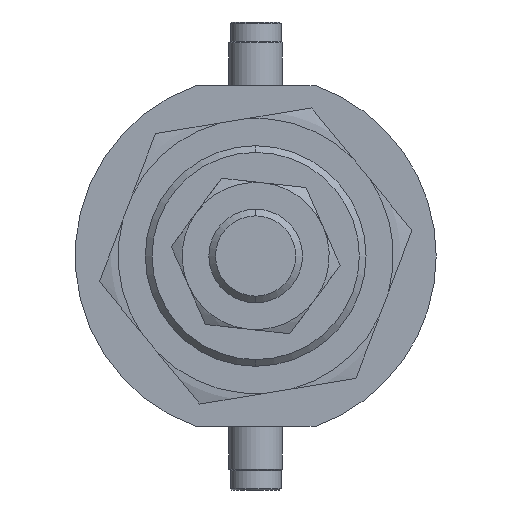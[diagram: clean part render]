
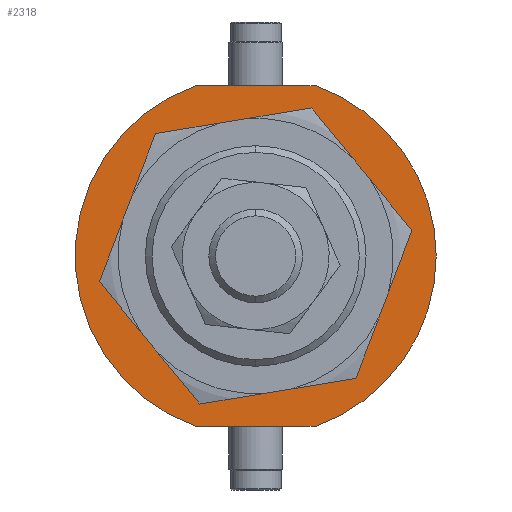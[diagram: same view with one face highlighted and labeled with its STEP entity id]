
A CAD part, left-side view. The second image highlights one B-rep face of the part: STEP entity #2318.
In plain terms, the highlighted planar face has unit normal (-1, 0, 0) as drawn and (0, 1, 0) by its records, which use the part's own axes.
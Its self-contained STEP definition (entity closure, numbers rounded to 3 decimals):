
#57 = CARTESIAN_POINT ( 'NONE',  ( -25.5, 4.5, -8.874 ) ) ;
#67 = EDGE_CURVE ( 'NONE', #132, #5242, #3370, .T. ) ;
#132 = VERTEX_POINT ( 'NONE', #4162 ) ;
#187 = VECTOR ( 'NONE', #3999, 1000. ) ;
#197 = VERTEX_POINT ( 'NONE', #2163 ) ;
#252 = CARTESIAN_POINT ( 'NONE',  ( 0., 4.5, -16.5 ) ) ;
#300 = CARTESIAN_POINT ( 'NONE',  ( 0., 4.5, 16.5 ) ) ;
#430 = EDGE_CURVE ( 'NONE', #2630, #1243, #3219, .T. ) ;
#443 = EDGE_CURVE ( 'NONE', #1243, #2630, #1085, .T. ) ;
#461 = ORIENTED_EDGE ( 'NONE', *, *, #430, .F. ) ;
#506 = PLANE ( 'NONE',  #1558 ) ;
#680 = DIRECTION ( 'NONE',  ( 0., 1., 0. ) ) ;
#975 = EDGE_CURVE ( 'NONE', #5242, #197, #4579, .T. ) ;
#1062 = DIRECTION ( 'NONE',  ( 0., 0., -1. ) ) ;
#1081 = EDGE_LOOP ( 'NONE', ( #3399, #4195, #4968, #3410, #5433 ) ) ;
#1085 = CIRCLE ( 'NONE', #1842, 16.5 ) ;
#1243 = VERTEX_POINT ( 'NONE', #300 ) ;
#1325 = CARTESIAN_POINT ( 'NONE',  ( 25.5, 4.5, -8.874 ) ) ;
#1558 = AXIS2_PLACEMENT_3D ( 'NONE', #5021, #680, #3441 ) ;
#1704 = CARTESIAN_POINT ( 'NONE',  ( 0., 4.5, 0. ) ) ;
#1782 = CIRCLE ( 'NONE', #2525, 27. ) ;
#1800 = VERTEX_POINT ( 'NONE', #3801 ) ;
#1842 = AXIS2_PLACEMENT_3D ( 'NONE', #1704, #4790, #3840 ) ;
#1857 = CARTESIAN_POINT ( 'NONE',  ( 0., 4.5, 0. ) ) ;
#1899 = CIRCLE ( 'NONE', #2984, 27. ) ;
#1901 = EDGE_CURVE ( 'NONE', #5164, #1800, #1899, .T. ) ;
#1930 = DIRECTION ( 'NONE',  ( 0., 1., 0. ) ) ;
#2033 = FACE_OUTER_BOUND ( 'NONE', #1081, .T. ) ;
#2122 = DIRECTION ( 'NONE',  ( 0., 1., 0. ) ) ;
#2163 = CARTESIAN_POINT ( 'NONE',  ( -25.5, 4.5, -8.874 ) ) ;
#2318 = ADVANCED_FACE ( 'NONE', ( #4391, #2033 ), #506, .T. ) ;
#2333 = DIRECTION ( 'NONE',  ( 0., 1., 0. ) ) ;
#2452 = AXIS2_PLACEMENT_3D ( 'NONE', #4300, #1930, #3079 ) ;
#2525 = AXIS2_PLACEMENT_3D ( 'NONE', #1857, #3262, #3994 ) ;
#2630 = VERTEX_POINT ( 'NONE', #252 ) ;
#2690 = EDGE_LOOP ( 'NONE', ( #3661, #461 ) ) ;
#2984 = AXIS2_PLACEMENT_3D ( 'NONE', #3009, #2122, #5119 ) ;
#3009 = CARTESIAN_POINT ( 'NONE',  ( 0., 4.5, 0. ) ) ;
#3060 = AXIS2_PLACEMENT_3D ( 'NONE', #4025, #2333, #5406 ) ;
#3079 = DIRECTION ( 'NONE',  ( 0., 0., 1. ) ) ;
#3098 = LINE ( 'NONE', #57, #187 ) ;
#3219 = CIRCLE ( 'NONE', #3060, 16.5 ) ;
#3262 = DIRECTION ( 'NONE',  ( 0., 1., 0. ) ) ;
#3273 = EDGE_CURVE ( 'NONE', #1800, #132, #1782, .T. ) ;
#3370 = LINE ( 'NONE', #1325, #4716 ) ;
#3399 = ORIENTED_EDGE ( 'NONE', *, *, #975, .T. ) ;
#3410 = ORIENTED_EDGE ( 'NONE', *, *, #3273, .T. ) ;
#3440 = CARTESIAN_POINT ( 'NONE',  ( 25.5, 4.5, -8.874 ) ) ;
#3441 = DIRECTION ( 'NONE',  ( 0., 0., 1. ) ) ;
#3661 = ORIENTED_EDGE ( 'NONE', *, *, #443, .F. ) ;
#3801 = CARTESIAN_POINT ( 'NONE',  ( 0., 4.5, 27. ) ) ;
#3840 = DIRECTION ( 'NONE',  ( 0., 0., 1. ) ) ;
#3994 = DIRECTION ( 'NONE',  ( 0., 0., 1. ) ) ;
#3999 = DIRECTION ( 'NONE',  ( 0., 0., 1. ) ) ;
#4025 = CARTESIAN_POINT ( 'NONE',  ( 0., 4.5, 0. ) ) ;
#4162 = CARTESIAN_POINT ( 'NONE',  ( 25.5, 4.5, 8.874 ) ) ;
#4195 = ORIENTED_EDGE ( 'NONE', *, *, #4353, .T. ) ;
#4219 = CARTESIAN_POINT ( 'NONE',  ( -25.5, 4.5, 8.874 ) ) ;
#4300 = CARTESIAN_POINT ( 'NONE',  ( 0., 4.5, 0. ) ) ;
#4353 = EDGE_CURVE ( 'NONE', #197, #5164, #3098, .T. ) ;
#4391 = FACE_BOUND ( 'NONE', #2690, .T. ) ;
#4579 = CIRCLE ( 'NONE', #2452, 27. ) ;
#4716 = VECTOR ( 'NONE', #1062, 1000. ) ;
#4790 = DIRECTION ( 'NONE',  ( 0., 1., 0. ) ) ;
#4968 = ORIENTED_EDGE ( 'NONE', *, *, #1901, .T. ) ;
#5021 = CARTESIAN_POINT ( 'NONE',  ( 0., 4.5, 0. ) ) ;
#5119 = DIRECTION ( 'NONE',  ( 0., 0., 1. ) ) ;
#5164 = VERTEX_POINT ( 'NONE', #4219 ) ;
#5242 = VERTEX_POINT ( 'NONE', #3440 ) ;
#5406 = DIRECTION ( 'NONE',  ( 0., 0., 1. ) ) ;
#5433 = ORIENTED_EDGE ( 'NONE', *, *, #67, .T. ) ;
